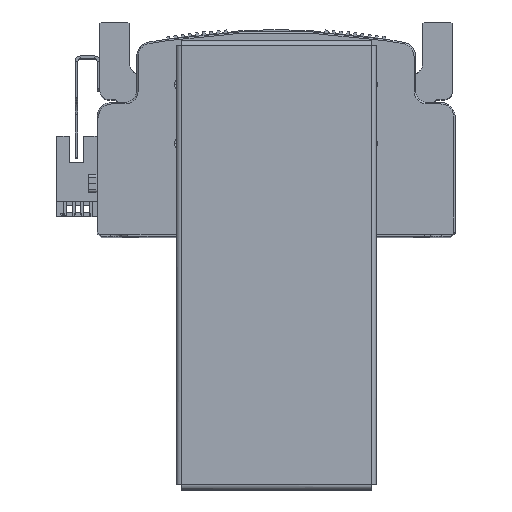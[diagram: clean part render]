
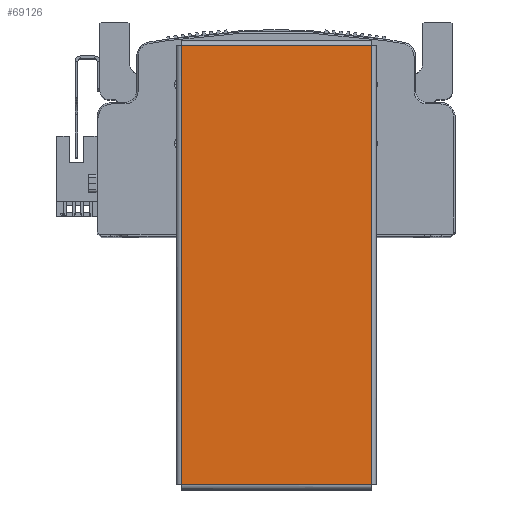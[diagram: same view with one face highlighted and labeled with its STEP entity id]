
A CAD part, top view. The second image highlights one B-rep face of the part: STEP entity #69126.
In plain terms, the highlighted planar face has unit normal (0, 0, 1) as drawn and (0, 0, -1) by its records, which use the part's own axes.
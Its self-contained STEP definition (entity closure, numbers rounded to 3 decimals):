
#6338 = LINE ( 'NONE', #7576, #6342 ) ;
#6342 = VECTOR ( 'NONE', #7574, 1000. ) ;
#6349 = VECTOR ( 'NONE', #7618, 1000. ) ;
#6359 = LINE ( 'NONE', #7595, #6378 ) ;
#6361 = LINE ( 'NONE', #7585, #6379 ) ;
#6367 = LINE ( 'NONE', #7635, #6349 ) ;
#6378 = VECTOR ( 'NONE', #7600, 1000. ) ;
#6379 = VECTOR ( 'NONE', #7593, 1000. ) ;
#7574 = DIRECTION ( 'NONE',  ( 0., 1., 0. ) ) ;
#7576 = CARTESIAN_POINT ( 'NONE',  ( -74.763, -32.393, -1. ) ) ;
#7585 = CARTESIAN_POINT ( 'NONE',  ( 74.793, -32.363, -1. ) ) ;
#7593 = DIRECTION ( 'NONE',  ( -1., 0., 0. ) ) ;
#7595 = CARTESIAN_POINT ( 'NONE',  ( 74.763, 32.393, -1. ) ) ;
#7600 = DIRECTION ( 'NONE',  ( 0., -1., 0. ) ) ;
#7618 = DIRECTION ( 'NONE',  ( 1., 0., 0. ) ) ;
#7635 = CARTESIAN_POINT ( 'NONE',  ( -74.793, 32.363, -1. ) ) ;
#10814 = VERTEX_POINT ( 'NONE', #18086 ) ;
#10846 = VERTEX_POINT ( 'NONE', #18143 ) ;
#10859 = VERTEX_POINT ( 'NONE', #18197 ) ;
#10871 = VERTEX_POINT ( 'NONE', #18157 ) ;
#12648 = DIRECTION ( 'NONE',  ( 1., 0., 0. ) ) ;
#12670 = PLANE ( 'NONE',  #55386 ) ;
#12684 = DIRECTION ( 'NONE',  ( 0., 0., 1. ) ) ;
#12685 = CARTESIAN_POINT ( 'NONE',  ( 0., 0., -1. ) ) ;
#18086 = CARTESIAN_POINT ( 'NONE',  ( 74.763, 32.363, -1. ) ) ;
#18143 = CARTESIAN_POINT ( 'NONE',  ( 74.763, -32.363, -1. ) ) ;
#18157 = CARTESIAN_POINT ( 'NONE',  ( -74.763, 32.363, -1. ) ) ;
#18197 = CARTESIAN_POINT ( 'NONE',  ( -74.763, -32.363, -1. ) ) ;
#50337 = FACE_OUTER_BOUND ( 'NONE', #58980, .T. ) ;
#55386 = AXIS2_PLACEMENT_3D ( 'NONE', #12685, #12684, #12648 ) ;
#58368 = EDGE_CURVE ( 'NONE', #10846, #10859, #6361, .T. ) ;
#58373 = EDGE_CURVE ( 'NONE', #10859, #10871, #6338, .T. ) ;
#58381 = EDGE_CURVE ( 'NONE', #10814, #10846, #6359, .T. ) ;
#58389 = EDGE_CURVE ( 'NONE', #10871, #10814, #6367, .T. ) ;
#58980 = EDGE_LOOP ( 'NONE', ( #60229, #60258, #60117, #60167 ) ) ;
#60117 = ORIENTED_EDGE ( 'NONE', *, *, #58373, .T. ) ;
#60167 = ORIENTED_EDGE ( 'NONE', *, *, #58389, .T. ) ;
#60229 = ORIENTED_EDGE ( 'NONE', *, *, #58381, .T. ) ;
#60258 = ORIENTED_EDGE ( 'NONE', *, *, #58368, .T. ) ;
#69126 = ADVANCED_FACE ( 'NONE', ( #50337 ), #12670, .F. ) ;
